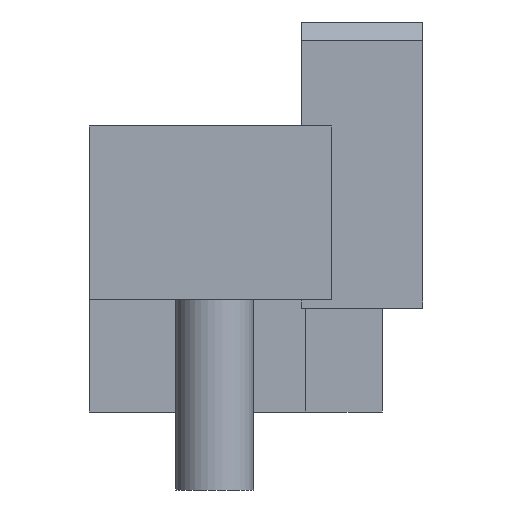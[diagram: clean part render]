
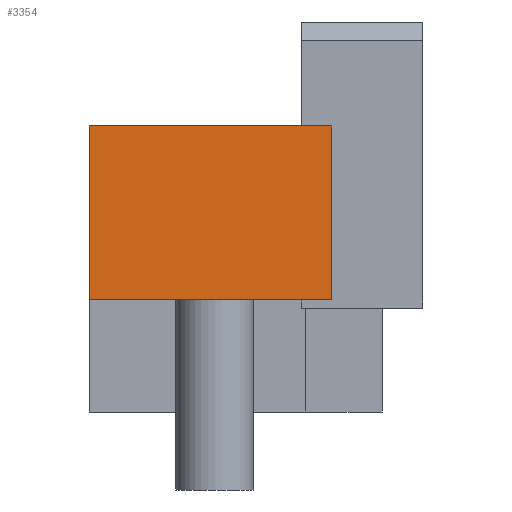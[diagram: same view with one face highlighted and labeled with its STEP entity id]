
A CAD part, front view. The second image highlights one B-rep face of the part: STEP entity #3354.
In plain terms, the highlighted planar face has unit normal (0, -1, 0).
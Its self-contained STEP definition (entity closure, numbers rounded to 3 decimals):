
#2888 = VERTEX_POINT('',#2889);
#2889 = CARTESIAN_POINT('',(31.3,-16.8,-10.7));
#2898 = PLANE('',#2899);
#2899 = AXIS2_PLACEMENT_3D('',#2900,#2901,#2902);
#2900 = CARTESIAN_POINT('',(31.3,-13.1,-14.7));
#2901 = DIRECTION('',(1.,0.,-0.));
#2902 = DIRECTION('',(0.,0.,1.));
#2910 = PLANE('',#2911);
#2911 = AXIS2_PLACEMENT_3D('',#2912,#2913,#2914);
#2912 = CARTESIAN_POINT('',(31.3,-13.1,-10.7));
#2913 = DIRECTION('',(0.,0.,1.));
#2914 = DIRECTION('',(1.,0.,-0.));
#2922 = EDGE_CURVE('',#2923,#2888,#2925,.T.);
#2923 = VERTEX_POINT('',#2924);
#2924 = CARTESIAN_POINT('',(31.3,-16.8,-14.7));
#2925 = SURFACE_CURVE('',#2926,(#2930,#2937),.PCURVE_S1.);
#2926 = LINE('',#2927,#2928);
#2927 = CARTESIAN_POINT('',(31.3,-16.8,-14.7));
#2928 = VECTOR('',#2929,1.);
#2929 = DIRECTION('',(0.,0.,1.));
#2930 = PCURVE('',#2898,#2931);
#2931 = DEFINITIONAL_REPRESENTATION('',(#2932),#2936);
#2932 = LINE('',#2933,#2934);
#2933 = CARTESIAN_POINT('',(0.,3.7));
#2934 = VECTOR('',#2935,1.);
#2935 = DIRECTION('',(1.,0.));
#2936 = ( GEOMETRIC_REPRESENTATION_CONTEXT(2) 
PARAMETRIC_REPRESENTATION_CONTEXT() REPRESENTATION_CONTEXT('2D SPACE',''
  ) );
#2937 = PCURVE('',#2938,#2943);
#2938 = PLANE('',#2939);
#2939 = AXIS2_PLACEMENT_3D('',#2940,#2941,#2942);
#2940 = CARTESIAN_POINT('',(31.3,-16.8,-14.7));
#2941 = DIRECTION('',(-0.,1.,0.));
#2942 = DIRECTION('',(0.,0.,1.));
#2943 = DEFINITIONAL_REPRESENTATION('',(#2944),#2948);
#2944 = LINE('',#2945,#2946);
#2945 = CARTESIAN_POINT('',(0.,0.));
#2946 = VECTOR('',#2947,1.);
#2947 = DIRECTION('',(1.,0.));
#2948 = ( GEOMETRIC_REPRESENTATION_CONTEXT(2) 
PARAMETRIC_REPRESENTATION_CONTEXT() REPRESENTATION_CONTEXT('2D SPACE',''
  ) );
#2966 = PLANE('',#2967);
#2967 = AXIS2_PLACEMENT_3D('',#2968,#2969,#2970);
#2968 = CARTESIAN_POINT('',(31.3,-13.1,-14.7));
#2969 = DIRECTION('',(0.,0.,1.));
#2970 = DIRECTION('',(1.,0.,-0.));
#3008 = EDGE_CURVE('',#2888,#3009,#3011,.T.);
#3009 = VERTEX_POINT('',#3010);
#3010 = CARTESIAN_POINT('',(36.9,-16.8,-10.7));
#3011 = SURFACE_CURVE('',#3012,(#3016,#3023),.PCURVE_S1.);
#3012 = LINE('',#3013,#3014);
#3013 = CARTESIAN_POINT('',(31.3,-16.8,-10.7));
#3014 = VECTOR('',#3015,1.);
#3015 = DIRECTION('',(1.,0.,-0.));
#3016 = PCURVE('',#2910,#3017);
#3017 = DEFINITIONAL_REPRESENTATION('',(#3018),#3022);
#3018 = LINE('',#3019,#3020);
#3019 = CARTESIAN_POINT('',(0.,-3.7));
#3020 = VECTOR('',#3021,1.);
#3021 = DIRECTION('',(1.,0.));
#3022 = ( GEOMETRIC_REPRESENTATION_CONTEXT(2) 
PARAMETRIC_REPRESENTATION_CONTEXT() REPRESENTATION_CONTEXT('2D SPACE',''
  ) );
#3023 = PCURVE('',#2938,#3024);
#3024 = DEFINITIONAL_REPRESENTATION('',(#3025),#3029);
#3025 = LINE('',#3026,#3027);
#3026 = CARTESIAN_POINT('',(4.,0.));
#3027 = VECTOR('',#3028,1.);
#3028 = DIRECTION('',(0.,1.));
#3029 = ( GEOMETRIC_REPRESENTATION_CONTEXT(2) 
PARAMETRIC_REPRESENTATION_CONTEXT() REPRESENTATION_CONTEXT('2D SPACE',''
  ) );
#3047 = PLANE('',#3048);
#3048 = AXIS2_PLACEMENT_3D('',#3049,#3050,#3051);
#3049 = CARTESIAN_POINT('',(36.9,-16.8,-14.7));
#3050 = DIRECTION('',(1.,0.,-0.));
#3051 = DIRECTION('',(0.,0.,1.));
#3195 = EDGE_CURVE('',#2923,#3196,#3198,.T.);
#3196 = VERTEX_POINT('',#3197);
#3197 = CARTESIAN_POINT('',(36.9,-16.8,-14.7));
#3198 = SURFACE_CURVE('',#3199,(#3203,#3210),.PCURVE_S1.);
#3199 = LINE('',#3200,#3201);
#3200 = CARTESIAN_POINT('',(31.3,-16.8,-14.7));
#3201 = VECTOR('',#3202,1.);
#3202 = DIRECTION('',(1.,0.,-0.));
#3203 = PCURVE('',#2966,#3204);
#3204 = DEFINITIONAL_REPRESENTATION('',(#3205),#3209);
#3205 = LINE('',#3206,#3207);
#3206 = CARTESIAN_POINT('',(0.,-3.7));
#3207 = VECTOR('',#3208,1.);
#3208 = DIRECTION('',(1.,0.));
#3209 = ( GEOMETRIC_REPRESENTATION_CONTEXT(2) 
PARAMETRIC_REPRESENTATION_CONTEXT() REPRESENTATION_CONTEXT('2D SPACE',''
  ) );
#3210 = PCURVE('',#2938,#3211);
#3211 = DEFINITIONAL_REPRESENTATION('',(#3212),#3216);
#3212 = LINE('',#3213,#3214);
#3213 = CARTESIAN_POINT('',(0.,0.));
#3214 = VECTOR('',#3215,1.);
#3215 = DIRECTION('',(0.,1.));
#3216 = ( GEOMETRIC_REPRESENTATION_CONTEXT(2) 
PARAMETRIC_REPRESENTATION_CONTEXT() REPRESENTATION_CONTEXT('2D SPACE',''
  ) );
#3354 = ADVANCED_FACE('',(#3355),#2938,.F.);
#3355 = FACE_BOUND('',#3356,.F.);
#3356 = EDGE_LOOP('',(#3357,#3358,#3359,#3360));
#3357 = ORIENTED_EDGE('',*,*,#3195,.F.);
#3358 = ORIENTED_EDGE('',*,*,#2922,.T.);
#3359 = ORIENTED_EDGE('',*,*,#3008,.T.);
#3360 = ORIENTED_EDGE('',*,*,#3361,.F.);
#3361 = EDGE_CURVE('',#3196,#3009,#3362,.T.);
#3362 = SURFACE_CURVE('',#3363,(#3367,#3374),.PCURVE_S1.);
#3363 = LINE('',#3364,#3365);
#3364 = CARTESIAN_POINT('',(36.9,-16.8,-14.7));
#3365 = VECTOR('',#3366,1.);
#3366 = DIRECTION('',(0.,0.,1.));
#3367 = PCURVE('',#2938,#3368);
#3368 = DEFINITIONAL_REPRESENTATION('',(#3369),#3373);
#3369 = LINE('',#3370,#3371);
#3370 = CARTESIAN_POINT('',(0.,5.6));
#3371 = VECTOR('',#3372,1.);
#3372 = DIRECTION('',(1.,0.));
#3373 = ( GEOMETRIC_REPRESENTATION_CONTEXT(2) 
PARAMETRIC_REPRESENTATION_CONTEXT() REPRESENTATION_CONTEXT('2D SPACE',''
  ) );
#3374 = PCURVE('',#3047,#3375);
#3375 = DEFINITIONAL_REPRESENTATION('',(#3376),#3380);
#3376 = LINE('',#3377,#3378);
#3377 = CARTESIAN_POINT('',(0.,0.));
#3378 = VECTOR('',#3379,1.);
#3379 = DIRECTION('',(1.,0.));
#3380 = ( GEOMETRIC_REPRESENTATION_CONTEXT(2) 
PARAMETRIC_REPRESENTATION_CONTEXT() REPRESENTATION_CONTEXT('2D SPACE',''
  ) );
